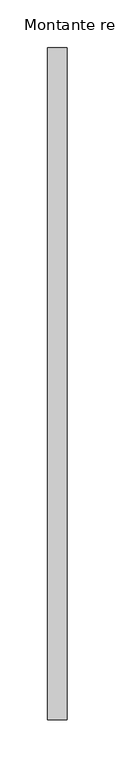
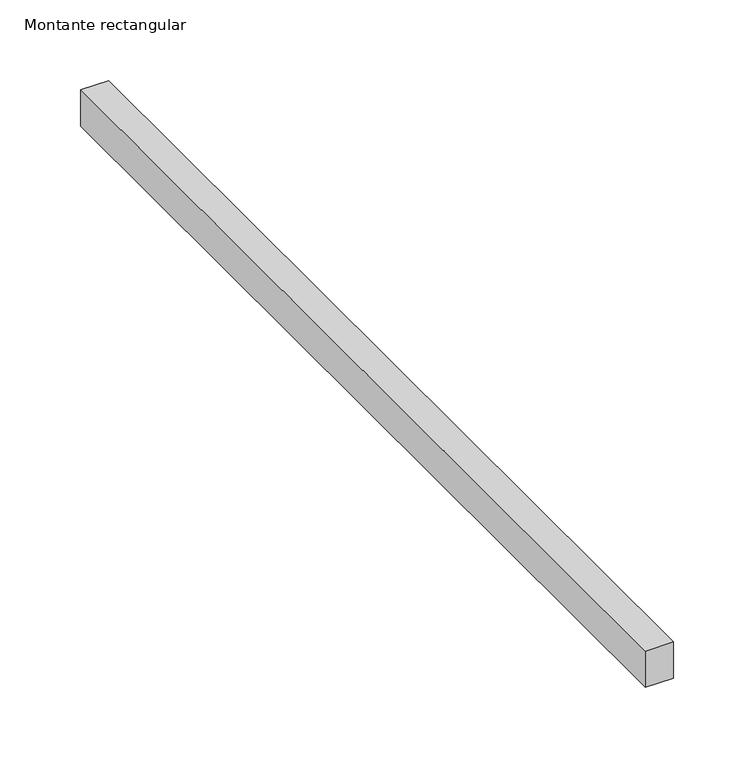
"""IFC4 building model written with IfcOpenShell, lengths in millimetres: member geometry, Montante rectangular : CIRCLES 2."""

from ifc_helpers import new_model, si_unit, frame, origin, place, context, project, spatial, polyline, outline, extrude, source, transform, mapped, element, save


def montante_rectangular_b00ed3f1(model_context):
    return source(origin(), model_context, "Body", "SweptSolid", [
        extrude(outline(polyline([(-20.0, 350.0), (0.0, 350.0), (0.0, -350.0), (-20.0, -350.0), (-20.0, 350.0)])), frame((0.0, 0.0, -27.2580201), z_axis=(0.0, 0.0, 1.0), x_axis=(1.0, 0.0, 0.0)), (0.0, 0.0, 1.0), 27.2580201),
    ])


if __name__ == "__main__":
    model = new_model("IFC4")
    model_context = context("Model", 3, world=origin())
    ifc_project = project(units=[si_unit("LENGTHUNIT", "METRE", prefix="MILLI")], contexts=[model_context])
    site = spatial("IfcSite", under=ifc_project)
    building = spatial("IfcBuilding", under=site)
    placement = place(None, origin())
    montante_rectangular_shape = montante_rectangular_b00ed3f1(model_context)
    element("IfcMember", 1, ObjectType="Montante rectangular : CIRCLES 2", at=placement, inside=building, context=model_context, shape_type="MappedRepresentation", body=[
        mapped(montante_rectangular_shape, transform((0.0, 0.0, 0.0), x_axis=(1.0, 0.0, 0.0), y_axis=(0.0, 1.0, 0.0), z_axis=(0.0, 0.0, 1.0))),
    ])
    save(model, "model.ifc")
